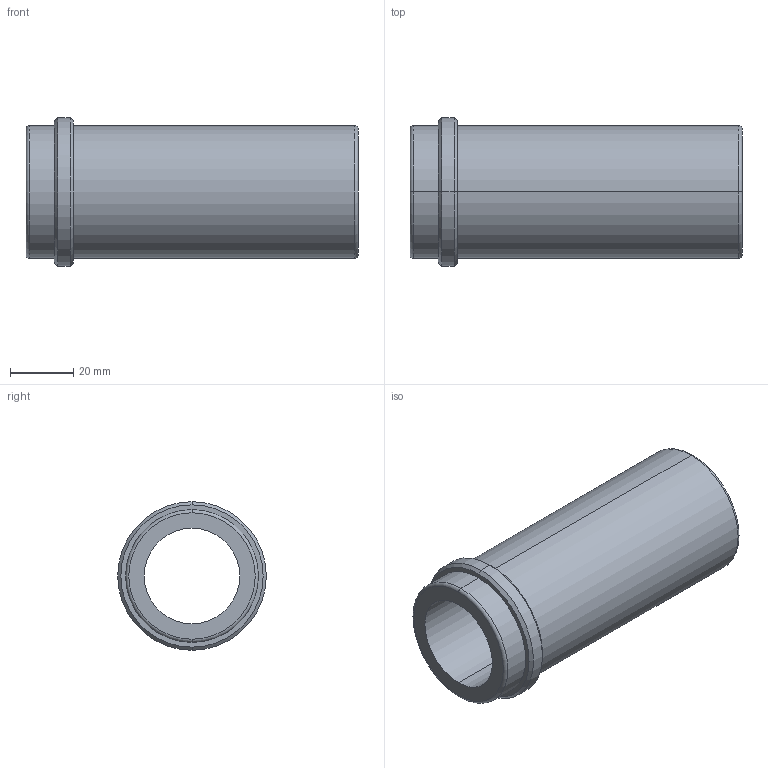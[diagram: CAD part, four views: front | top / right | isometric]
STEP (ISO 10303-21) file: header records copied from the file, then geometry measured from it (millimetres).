
FILE_DESCRIPTION (( 'STEP AP214' ), '1' );
FILE_NAME ('BR10 30x96.STEP', '2019-12-04T16:18:18', ( 'August' ), ( '' ), 'SwSTEP 2.0', 'SolidWorks 2018', '' );
FILE_SCHEMA (( 'AUTOMOTIVE_DESIGN' ));
Length unit declared in the file: millimetre
Products named in the file (1): BR10 30x96
Bounding box: 105 x 47 x 47 mm (x, y, z)
Volume: 72153.8 mm3; surface area: 25658.2 mm2
Topology: 1 solids, 1 shells, 20 faces, 40 edges, 24 vertices
Faces by surface type: cylinder 8, cone 4, torus 4, plane 4
Entity records: 566 total; most frequent: DIRECTION 110, CARTESIAN_POINT 85, ORIENTED_EDGE 80, AXIS2_PLACEMENT_3D 49, EDGE_CURVE 40, CIRCLE 28, VERTEX_POINT 24, EDGE_LOOP 24
